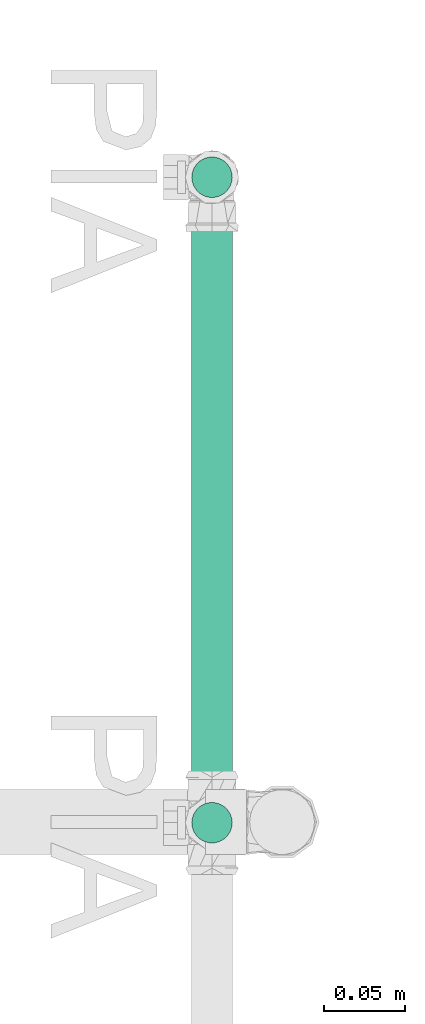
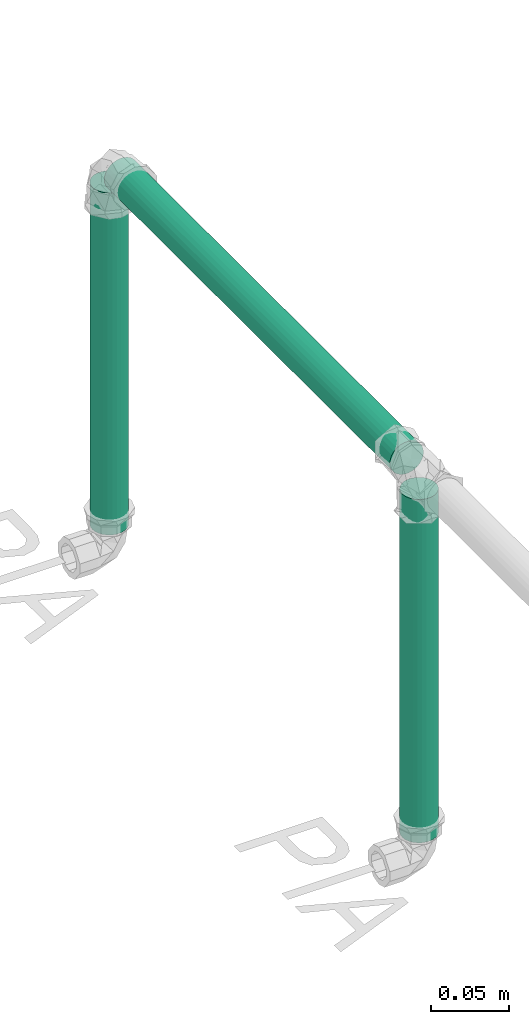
# One storey, part 129 of 589: 3 flow segments.
"""IFC2X3 building model written with IfcOpenShell, lengths in millimetres."""

from ifc_helpers import new_model, entity, si_unit, converted_unit, derived_unit, direction, frame, frame_2d, origin, origin_2d_with_axis, place, context, subcontext, project, spatial, circle, extrude, type_object, element, save


model = new_model("IFC2X3")

# Units and contexts
model_context = context("Model", 3, precision=0.01, world=origin(), true_north=direction((6.123031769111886e-17, 1.0)))
body_context = subcontext(model_context, "Body", "Model", "MODEL_VIEW")
ifc_project = project(units=[si_unit("LENGTHUNIT", "METRE", prefix="MILLI"), si_unit("AREAUNIT", "SQUARE_METRE"), si_unit("VOLUMEUNIT", "CUBIC_METRE"), converted_unit("PLANEANGLEUNIT", "DEGREE", entity("IfcRatioMeasure", 0.017453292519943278), si_unit("PLANEANGLEUNIT", "RADIAN"), dimensions=[0, 0, 0, 0, 0, 0, 0]), si_unit("MASSUNIT", "GRAM", prefix="KILO"), derived_unit("MASSDENSITYUNIT", [(si_unit("MASSUNIT", "GRAM", prefix="KILO"), 1), (si_unit("LENGTHUNIT", "METRE"), -3)]), derived_unit("IONCONCENTRATIONUNIT", [(si_unit("MASSUNIT", "GRAM", prefix="KILO"), 1), (si_unit("LENGTHUNIT", "METRE"), -3)]), derived_unit("MOMENTOFINERTIAUNIT", [(si_unit("LENGTHUNIT", "METRE"), 4)]), si_unit("TIMEUNIT", "SECOND"), si_unit("FREQUENCYUNIT", "HERTZ"), si_unit("THERMODYNAMICTEMPERATUREUNIT", "DEGREE_CELSIUS"), derived_unit("THERMALTRANSMITTANCEUNIT", [(si_unit("MASSUNIT", "GRAM", prefix="KILO"), 1), (si_unit("THERMODYNAMICTEMPERATUREUNIT", "KELVIN"), -1), (si_unit("TIMEUNIT", "SECOND"), -3)]), derived_unit("THERMALCONDUCTANCEUNIT", [(si_unit("MASSUNIT", "GRAM", prefix="KILO"), 1), (si_unit("THERMODYNAMICTEMPERATUREUNIT", "KELVIN"), -1), (si_unit("TIMEUNIT", "SECOND"), -3), (si_unit("LENGTHUNIT", "METRE"), 1)]), derived_unit("VOLUMETRICFLOWRATEUNIT", [(si_unit("LENGTHUNIT", "METRE"), 3), (si_unit("TIMEUNIT", "SECOND"), -1)]), derived_unit("MASSFLOWRATEUNIT", [(si_unit("MASSUNIT", "GRAM", prefix="KILO"), 1), (si_unit("TIMEUNIT", "SECOND"), -1)]), derived_unit("ROTATIONALFREQUENCYUNIT", [(si_unit("TIMEUNIT", "SECOND"), -1)]), si_unit("ELECTRICCURRENTUNIT", "AMPERE"), si_unit("ELECTRICVOLTAGEUNIT", "VOLT"), si_unit("POWERUNIT", "WATT"), si_unit("FORCEUNIT", "NEWTON", prefix="KILO"), si_unit("ILLUMINANCEUNIT", "LUX"), si_unit("LUMINOUSFLUXUNIT", "LUMEN"), si_unit("LUMINOUSINTENSITYUNIT", "CANDELA"), derived_unit("USERDEFINED", [(si_unit("MASSUNIT", "GRAM", prefix="KILO"), -1), (si_unit("LENGTHUNIT", "METRE"), -2), (si_unit("TIMEUNIT", "SECOND"), 3), (si_unit("LUMINOUSFLUXUNIT", "LUMEN"), 1)]), derived_unit("USERDEFINED", [(si_unit("MASSUNIT", "GRAM", prefix="KILO"), 1), (si_unit("TIMEUNIT", "SECOND"), -3), (si_unit("LENGTHUNIT", "METRE"), 3), (si_unit("ELECTRICCURRENTUNIT", "AMPERE"), -2)]), derived_unit("SOUNDPOWERUNIT", [(si_unit("MASSUNIT", "GRAM", prefix="KILO"), 1), (si_unit("TIMEUNIT", "SECOND"), -3), (si_unit("LENGTHUNIT", "METRE"), 2)]), derived_unit("SOUNDPRESSUREUNIT", [(si_unit("MASSUNIT", "GRAM", prefix="KILO"), 1), (si_unit("LENGTHUNIT", "METRE"), -1), (si_unit("TIMEUNIT", "SECOND"), -2)]), derived_unit("LINEARVELOCITYUNIT", [(si_unit("LENGTHUNIT", "METRE"), 1), (si_unit("TIMEUNIT", "SECOND"), -1)]), si_unit("PRESSUREUNIT", "PASCAL"), derived_unit("USERDEFINED", [(si_unit("MASSUNIT", "GRAM", prefix="KILO"), 1), (si_unit("LENGTHUNIT", "METRE"), -2), (si_unit("TIMEUNIT", "SECOND"), -2)]), derived_unit("LINEARFORCEUNIT", [(si_unit("MASSUNIT", "GRAM", prefix="KILO"), 1), (si_unit("TIMEUNIT", "SECOND"), -2)]), derived_unit("PLANARFORCEUNIT", [(si_unit("MASSUNIT", "GRAM", prefix="KILO"), 1), (si_unit("LENGTHUNIT", "METRE"), -1), (si_unit("TIMEUNIT", "SECOND"), -2)]), derived_unit("SPECIFICHEATCAPACITYUNIT", [(si_unit("THERMODYNAMICTEMPERATUREUNIT", "KELVIN"), -1), (si_unit("LENGTHUNIT", "METRE"), 2), (si_unit("TIMEUNIT", "SECOND"), -2)]), derived_unit("HEATINGVALUEUNIT", [(si_unit("LENGTHUNIT", "METRE"), 2), (si_unit("TIMEUNIT", "SECOND"), -2)]), derived_unit("VAPORPERMEABILITYUNIT", [(si_unit("LENGTHUNIT", "METRE"), -1), (si_unit("TIMEUNIT", "SECOND"), 1)]), derived_unit("DYNAMICVISCOSITYUNIT", [(si_unit("MASSUNIT", "GRAM", prefix="KILO"), 1), (si_unit("TIMEUNIT", "SECOND"), -1), (si_unit("LENGTHUNIT", "METRE"), -1)]), derived_unit("THERMALEXPANSIONCOEFFICIENTUNIT", [(si_unit("THERMODYNAMICTEMPERATUREUNIT", "KELVIN"), -1)]), derived_unit("MODULUSOFELASTICITYUNIT", [(si_unit("MASSUNIT", "GRAM", prefix="KILO"), 1), (si_unit("LENGTHUNIT", "METRE"), -1), (si_unit("TIMEUNIT", "SECOND"), -2)]), derived_unit("ISOTHERMALMOISTURECAPACITYUNIT", [(si_unit("LENGTHUNIT", "METRE"), 3), (si_unit("MASSUNIT", "GRAM", prefix="KILO"), -1)]), derived_unit("MOISTUREDIFFUSIVITYUNIT", [(si_unit("TIMEUNIT", "SECOND"), -1), (si_unit("LENGTHUNIT", "METRE"), 2)])], contexts=[model_context])

# Site, building, storey
site_placement = place(None, origin())
site = spatial("IfcSite", under=ifc_project, at=site_placement, Name="Default", CompositionType="ELEMENT")
building_placement = place(site_placement, origin())
building = spatial("IfcBuilding", under=site, at=building_placement, CompositionType="ELEMENT")
storey_placement = place(building_placement, frame((0.0, 0.0, 100.0)))
storey = spatial("IfcBuildingStorey", under=building, at=storey_placement, Name="TÉRREO", CompositionType="ELEMENT", Elevation=100.0)

# Flow segments
pipe_segment_type = type_object("IfcPipeSegmentType", Name="Tipos de tubos:PVC Marrom Soldável", PredefinedType="NOTDEFINED")
flow_segment_1_placement = place(storey_placement, origin())
element("IfcFlowSegment", 1, at=flow_segment_1_placement, inside=storey, type_object=pipe_segment_type, Name="Tipos de tubos:PVC Marrom Soldável", ObjectType="Tipos de tubos:PVC Marrom Soldável", context=body_context, shape_type="SweptSolid", body=[
    extrude(circle(Radius=12.5, at=frame_2d((0.0, -1.353583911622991e-13), x_axis=(1.0, 0.0))), frame((3191.179797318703, 697.3181290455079, 1016.300000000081), z_axis=(0.0, 0.0, 1.0), x_axis=(-1.0, 0.0, 0.0)), (0.0, 0.0, 1.0), 269.19999999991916),
])
flow_segment_2_placement = place(storey_placement, origin())
element("IfcFlowSegment", 2, at=flow_segment_2_placement, inside=storey, type_object=pipe_segment_type, Name="Tipos de tubos:PVC Marrom Soldável", ObjectType="Tipos de tubos:PVC Marrom Soldável", context=body_context, shape_type="SweptSolid", body=[
    extrude(circle(Radius=12.5, at=origin_2d_with_axis()), frame((3191.1797973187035, 1095.4131882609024, 1016.300000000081), z_axis=(0.0, 0.0, 1.0), x_axis=(-1.0, 0.0, 0.0)), (0.0, 0.0, 1.0), 268.2999999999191),
])
flow_segment_3_placement = place(storey_placement, origin())
element("IfcFlowSegment", 3, at=flow_segment_3_placement, inside=storey, type_object=pipe_segment_type, Name="Tipos de tubos:PVC Marrom Soldável", ObjectType="Tipos de tubos:PVC Marrom Soldável", context=body_context, shape_type="SweptSolid", body=[
    extrude(circle(Radius=12.5, at=origin_2d_with_axis()), frame((3191.179797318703, 713.2181290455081, 1300.0), z_axis=(0.0, 1.0, 0.0), x_axis=(1.0, 0.0, 0.0)), (0.0, 0.0, 1.0), 366.79505921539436),
])

save(model, "model.ifc")
